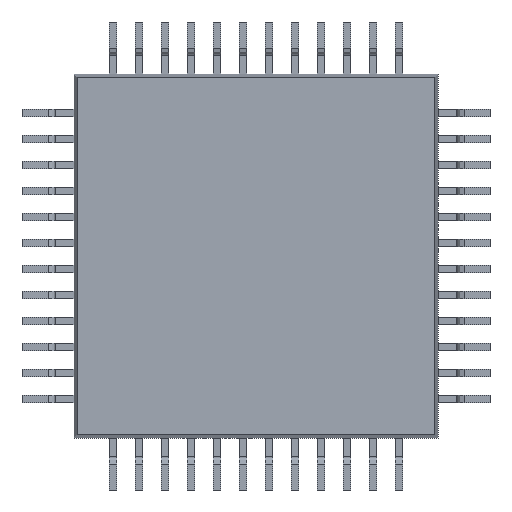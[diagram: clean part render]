
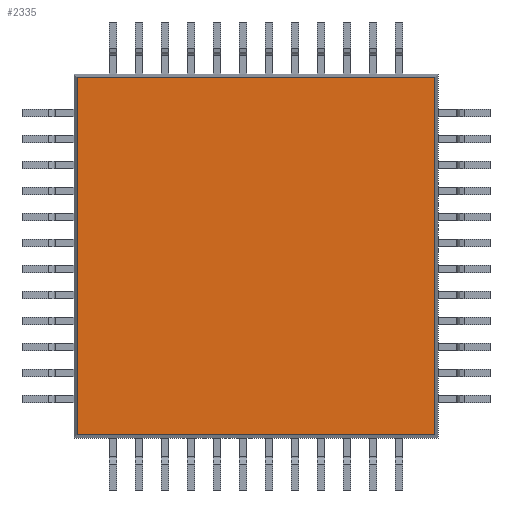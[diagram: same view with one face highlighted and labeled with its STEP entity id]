
A CAD part, front view. The second image highlights one B-rep face of the part: STEP entity #2335.
In plain terms, the highlighted planar face has unit normal (0, -1, 0).
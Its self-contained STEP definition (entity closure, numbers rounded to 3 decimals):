
#2192 = VERTEX_POINT('',#2193);
#2193 = CARTESIAN_POINT('',(3.434,0.12,3.434));
#2201 = VERTEX_POINT('',#2202);
#2202 = CARTESIAN_POINT('',(3.434,0.12,-3.434));
#2208 = EDGE_CURVE('',#2192,#2201,#2209,.T.);
#2209 = LINE('',#2210,#2211);
#2210 = CARTESIAN_POINT('',(3.434,0.12,10.058));
#2211 = VECTOR('',#2212,1.);
#2212 = DIRECTION('',(0.,0.,-1.));
#2316 = EDGE_CURVE('',#2192,#2317,#2319,.T.);
#2317 = VERTEX_POINT('',#2318);
#2318 = CARTESIAN_POINT('',(-3.434,0.12,3.434));
#2319 = LINE('',#2320,#2321);
#2320 = CARTESIAN_POINT('',(10.058,0.12,3.434));
#2321 = VECTOR('',#2322,1.);
#2322 = DIRECTION('',(-1.,0.,0.));
#2335 = ADVANCED_FACE('',(#2336),#2354,.F.);
#2336 = FACE_BOUND('',#2337,.F.);
#2337 = EDGE_LOOP('',(#2338,#2339,#2340,#2348));
#2338 = ORIENTED_EDGE('',*,*,#2316,.F.);
#2339 = ORIENTED_EDGE('',*,*,#2208,.T.);
#2340 = ORIENTED_EDGE('',*,*,#2341,.T.);
#2341 = EDGE_CURVE('',#2201,#2342,#2344,.T.);
#2342 = VERTEX_POINT('',#2343);
#2343 = CARTESIAN_POINT('',(-3.434,0.12,-3.434));
#2344 = LINE('',#2345,#2346);
#2345 = CARTESIAN_POINT('',(10.058,0.12,-3.434));
#2346 = VECTOR('',#2347,1.);
#2347 = DIRECTION('',(-1.,0.,0.));
#2348 = ORIENTED_EDGE('',*,*,#2349,.F.);
#2349 = EDGE_CURVE('',#2317,#2342,#2350,.T.);
#2350 = LINE('',#2351,#2352);
#2351 = CARTESIAN_POINT('',(-3.434,0.12,10.058));
#2352 = VECTOR('',#2353,1.);
#2353 = DIRECTION('',(0.,0.,-1.));
#2354 = PLANE('',#2355);
#2355 = AXIS2_PLACEMENT_3D('',#2356,#2357,#2358);
#2356 = CARTESIAN_POINT('',(0.,0.12,0.));
#2357 = DIRECTION('',(0.,1.,0.));
#2358 = DIRECTION('',(0.,0.,1.));
